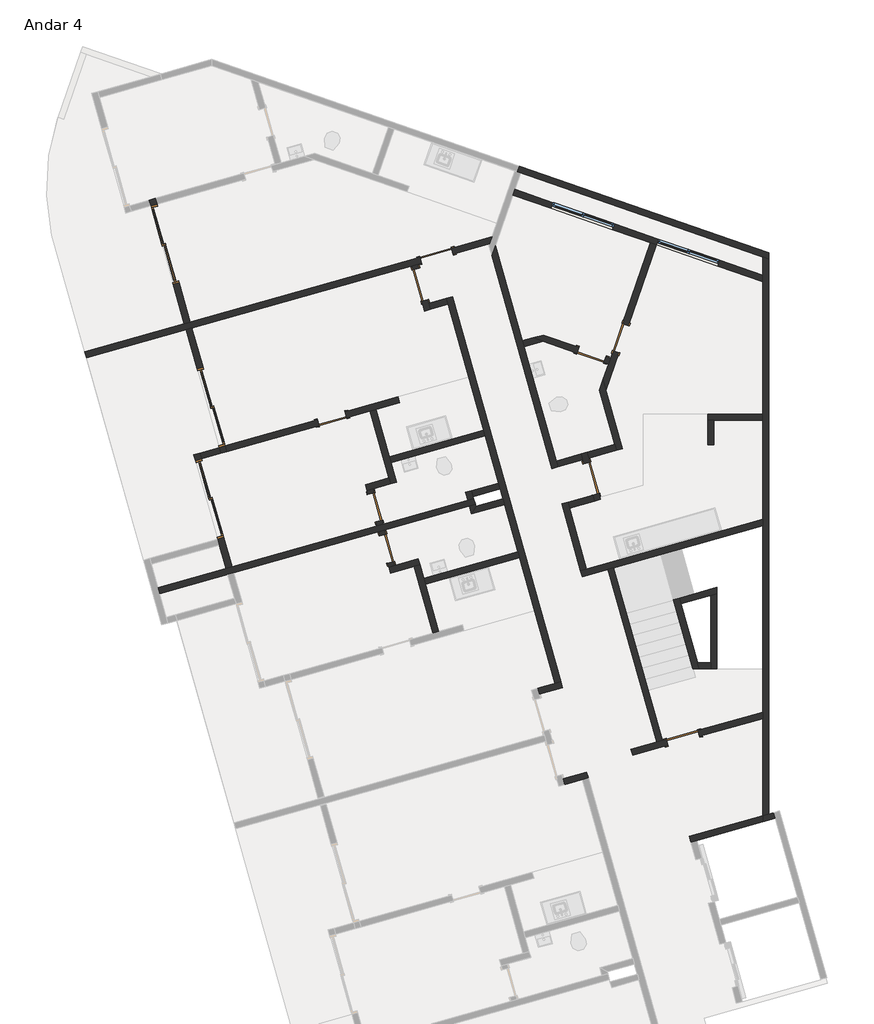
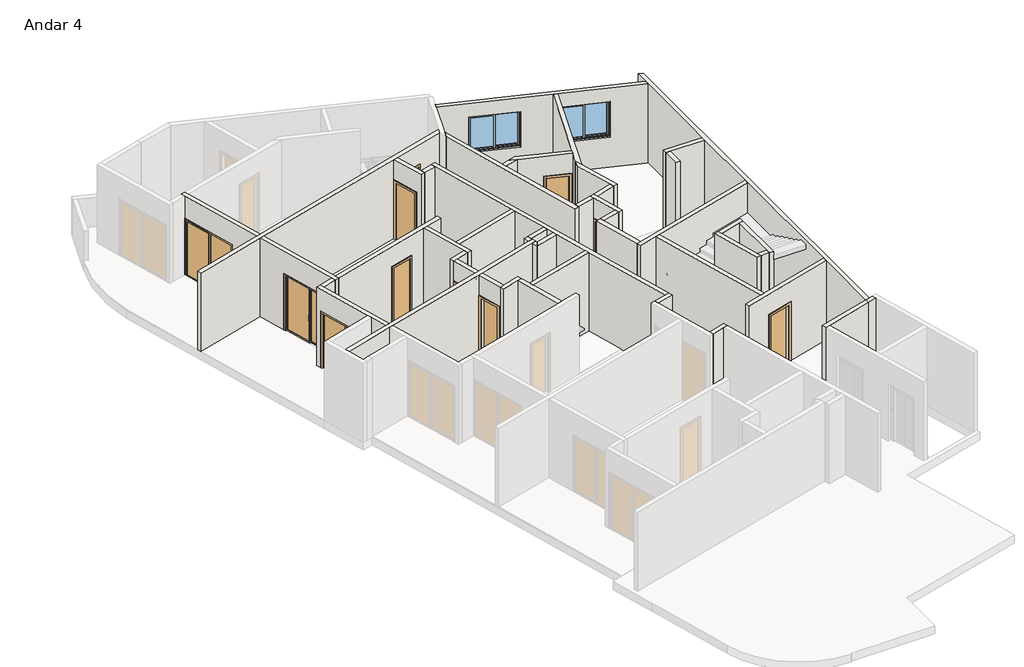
# One storey, part 2 of 3: 48 walls, 12 doors, 2 windows.
"""IFC4 building model written with IfcOpenShell, lengths in millimetres."""

from ifc_helpers import new_model, si_unit, frame, origin, place, context, project, spatial, polyline, outline, extrude, faceted_brep, transform, mapped, element, save
from components import p2_80cm_9d4be4ef, p2_80cm_083652d6, p3_70cm_ef4d15e3, p3_70cm_0a698c7c, p4_correr_200cm_eaaa0877, jx_160cm_e9e36a0c

model = new_model("IFC4")

# Units and contexts
model_context = context("Model", 3, world=origin())
ifc_project = project(units=[si_unit("LENGTHUNIT", "METRE", prefix="MILLI")], contexts=[model_context])

# Site, building, storey
site = spatial("IfcSite", under=ifc_project)
building = spatial("IfcBuilding", under=site)
storey = spatial("IfcBuildingStorey", under=building, Name="Andar 4", Elevation=62350.0)

# Doors
placement = place(None, origin())
p2_80cm_shape = p2_80cm_9d4be4ef(model_context)
element("IfcDoor", 1, ObjectType="M_Folha única1 : P2 - 80CM", at=placement, inside=storey, context=model_context, shape_type="MappedRepresentation", body=[
    mapped(p2_80cm_shape, transform((-83145.1128896, 30941.0402894, 62350.0), x_axis=(-0.9623628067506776, -0.2717679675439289, 0.0), y_axis=(0.2717679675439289, -0.9623628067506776, 0.0), z_axis=(0.0, 0.0, 1.0))),
])
element("IfcDoor", 2, ObjectType="M_Folha única1 : P2 - 80CM", at=placement, inside=storey, context=model_context, shape_type="MappedRepresentation", body=[
    mapped(p2_80cm_shape, transform((-79349.4097406, 25479.1041247, 62350.0), x_axis=(-0.27176796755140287, 0.962362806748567, 0.0), y_axis=(-0.962362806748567, -0.27176796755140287, 0.0), z_axis=(0.0, 0.0, 1.0))),
])
p2_80cm_2_shape = p2_80cm_083652d6(model_context)
element("IfcDoor", 3, ObjectType="M_Folha única1 : P2 - 80CM", at=placement, inside=storey, context=model_context, shape_type="MappedRepresentation", body=[
    mapped(p2_80cm_2_shape, transform((-83542.2049222, 30231.4150941, 62350.0), x_axis=(-0.2717679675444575, 0.9623628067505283, 0.0), y_axis=(-0.9623628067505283, -0.2717679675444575, 0.0), z_axis=(0.0, 0.0, 1.0))),
])
p3_70cm_shape = p3_70cm_ef4d15e3(model_context)
element("IfcDoor", 4, ObjectType="M_Folha única1 : P3 - 70CM", at=placement, inside=storey, context=model_context, shape_type="MappedRepresentation", body=[
    mapped(p3_70cm_shape, transform((-84650.97864, 24774.7108835, 62350.0), x_axis=(0.2717679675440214, -0.9623628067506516, 0.0), y_axis=(0.9623628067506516, 0.2717679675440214, 0.0), z_axis=(0.0, 0.0, 1.0))),
])
p3_70cm_2_shape = p3_70cm_0a698c7c(model_context)
element("IfcDoor", 5, ObjectType="M_Folha única1 : P3 - 70CM", at=placement, inside=storey, context=model_context, shape_type="MappedRepresentation", body=[
    mapped(p3_70cm_2_shape, transform((-84365.6222741, 23764.2299364, 62350.0), x_axis=(-0.2717679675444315, 0.9623628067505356, 0.0), y_axis=(-0.9623628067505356, -0.2717679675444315, 0.0), z_axis=(0.0, 0.0, 1.0))),
])
element("IfcDoor", 6, ObjectType="M_Folha única1 : P3 - 70CM", at=placement, inside=storey, context=model_context, shape_type="MappedRepresentation", body=[
    mapped(p3_70cm_2_shape, transform((-85705.4317558, 26944.8211633, 62350.0), x_axis=(0.9623628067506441, 0.2717679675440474, 0.0), y_axis=(-0.2717679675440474, 0.9623628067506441, 0.0), z_axis=(0.0, 0.0, 1.0))),
])
element("IfcDoor", 7, ObjectType="M_Folha única1 : P3 - 70CM", at=placement, inside=storey, context=model_context, shape_type="MappedRepresentation", body=[
    mapped(p3_70cm_2_shape, transform((-79346.1223746, 28509.6973665, 62350.0), x_axis=(0.9449109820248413, -0.32732741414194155, 0.0), y_axis=(0.32732741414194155, 0.9449109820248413, 0.0), z_axis=(0.0, 0.0, 1.0))),
])
element("IfcDoor", 8, ObjectType="M_Folha única1 : P3 - 70CM", at=placement, inside=storey, context=model_context, shape_type="MappedRepresentation", body=[
    mapped(p3_70cm_2_shape, transform((-78626.5662556, 28921.8732895, 62350.0), x_axis=(-0.32732741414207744, -0.9449109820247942, 0.0), y_axis=(0.9449109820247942, -0.32732741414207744, 0.0), z_axis=(0.0, 0.0, 1.0))),
])
p4_correr_200cm_shape = p4_correr_200cm_eaaa0877(model_context)
element("IfcDoor", 9, ObjectType="Porta de correr dupla envidraçada sem revestimento : P4 - CORRER - 200CM", at=placement, inside=storey, context=model_context, shape_type="MappedRepresentation", body=[
    mapped(p4_correr_200cm_shape, transform((-89799.7974026, 31217.9316171, 62350.0), x_axis=(0.27176796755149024, -0.9623628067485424, 0.0), y_axis=(0.9623628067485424, 0.27176796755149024, 0.0), z_axis=(0.0, 0.0, 1.0))),
])
element("IfcDoor", 10, ObjectType="Porta de correr dupla envidraçada sem revestimento : P4 - CORRER - 200CM", at=placement, inside=storey, context=model_context, shape_type="MappedRepresentation", body=[
    mapped(p4_correr_200cm_shape, transform((-88671.9603372, 27224.125969, 62350.0), x_axis=(-0.27176796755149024, 0.9623628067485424, 0.0), y_axis=(-0.9623628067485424, -0.27176796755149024, 0.0), z_axis=(0.0, 0.0, 1.0))),
])
element("IfcDoor", 11, ObjectType="Porta de correr dupla envidraçada sem revestimento : P4 - CORRER - 200CM", at=placement, inside=storey, context=model_context, shape_type="MappedRepresentation", body=[
    mapped(p4_correr_200cm_shape, transform((-88709.3738038, 24979.4758572, 62350.0), x_axis=(-0.2717679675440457, 0.9623628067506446, 0.0), y_axis=(-0.9623628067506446, -0.2717679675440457, 0.0), z_axis=(0.0, 0.0, 1.0))),
])
element("IfcDoor", 12, ObjectType="M_Folha única1 : PCF1 - 80CM", at=placement, inside=storey, context=model_context, shape_type="MappedRepresentation", body=[
    mapped(p2_80cm_shape, transform((-77103.5502958, 19127.1105693, 62350.0), x_axis=(-0.9623628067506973, -0.2717679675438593, 0.0), y_axis=(0.2717679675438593, -0.9623628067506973, 0.0), z_axis=(0.0, 0.0, 1.0))),
])

# Walls
element("IfcWall", 13, ObjectType="Básica .15 -  Interna", at=placement, inside=storey, context=model_context, shape_type="Brep", body=[
    faceted_brep([(-82901.0804648, 29892.9118737, 62350.0), (-82860.3152697, 29748.5574527, 62350.0), (-81990.6577736, 26668.9964711, 62350.0), (-81949.8925784, 26524.6420501, 62350.0), (-81623.7710174, 25369.806682, 62350.0), (-81583.0058223, 25225.452261, 62350.0), (-81515.0638304, 24984.8615593, 62350.0), (-81474.2986352, 24840.5071383, 62350.0), (-81148.1770742, 23685.6717702, 62350.0), (-81107.4118791, 23541.3173492, 62350.0), (-80237.7543829, 20461.7563676, 62350.0), (-80237.7543829, 20461.7563676, 65250.0), (-81107.4118791, 23541.3173492, 65250.0), (-81148.1770742, 23685.6717702, 65250.0), (-81474.2986352, 24840.5071383, 65250.0), (-81515.0638304, 24984.8615593, 65250.0), (-81583.0058223, 25225.452261, 65250.0), (-81623.7710174, 25369.806682, 65250.0), (-81949.8925784, 26524.6420501, 65250.0), (-81990.6577736, 26668.9964711, 65250.0), (-82860.3152697, 29748.5574527, 65250.0), (-82901.0804648, 29892.9118737, 65250.0), (-82756.7260438, 29933.6770689, 62350.0), (-82756.7260438, 29933.6770689, 65250.0), (-80093.3999619, 20502.5215627, 65250.0), (-80093.3999619, 20502.5215627, 62350.0)], [[[0, 1, 2, 3, 4, 5, 6, 7, 8, 9, 10, 11, 12, 13, 14, 15, 16, 17, 18, 19, 20, 21]], [[22, 23, 24, 25]], [[10, 9, 8, 7, 6, 5, 4, 3, 2, 1, 0, 22, 25]], [[21, 20, 19, 18, 17, 16, 15, 14, 13, 12, 11, 24, 23]], [[0, 21, 23, 22]], [[11, 10, 25, 24]]]),
])
element("IfcWall", 14, ObjectType="Básica .15 -  Interna", at=placement, inside=storey, context=model_context, shape_type="Brep", body=[
    faceted_brep([(-83750.2661164, 30692.2138999, 62350.0), (-83723.0893197, 30595.9776193, 62350.0), (-83723.0893197, 30595.9776193, 64450.0), (-83505.6749457, 29826.0873739, 64450.0), (-83505.6749457, 29826.0873739, 62350.0), (-83437.7329538, 29585.4966722, 62350.0), (-83437.7329538, 29585.4966722, 65250.0), (-83750.2661164, 30692.2138999, 65250.0), (-83578.7348987, 30636.7428144, 64450.0), (-83578.7348987, 30636.7428144, 62350.0), (-83605.9116954, 30732.9790951, 62350.0), (-83605.9116954, 30732.9790951, 65250.0), (-83334.1437279, 29770.6162883, 65250.0), (-83293.3785328, 29626.2618673, 65250.0), (-83293.3785328, 29626.2618673, 62350.0), (-83334.1437279, 29770.6162883, 62350.0), (-83361.3205246, 29866.852569, 62350.0), (-83361.3205246, 29866.852569, 64450.0)], [[[0, 1, 2, 3, 4, 5, 6, 7]], [[8, 9, 10, 11, 12, 13, 14, 15, 16, 17]], [[10, 9, 1, 0]], [[16, 15, 14, 5, 4]], [[7, 6, 13, 12, 11]], [[6, 5, 14, 13]], [[0, 7, 11, 10]], [[2, 1, 9, 8]], [[3, 2, 8, 17]], [[4, 3, 17, 16]]]),
])
element("IfcWall", 15, ObjectType="Básica .15 -  Interna", at=placement, inside=storey, context=model_context, shape_type="SweptSolid", body=[
    extrude(outline(polyline([(-82860.3152697, 29748.5574527), (-83293.3785328, 29626.2618673), (-83334.1437279, 29770.6162883), (-82901.0804648, 29892.9118737), (-82860.3152697, 29748.5574527)])), frame((0.0, 0.0, 62350.0), z_axis=(0.0, 0.0, 1.0), x_axis=(1.0, 0.0, 0.0)), (0.0, 0.0, 1.0), 2900.0),
])
element("IfcWall", 16, ObjectType="Básica .15 -  Interna", at=placement, inside=storey, context=model_context, shape_type="Brep", body=[
    faceted_brep([(-80093.3999619, 20502.5215627, 62350.0), (-80237.7543829, 20461.7563676, 62350.0), (-80670.817646, 20339.4607822, 62350.0), (-80670.817646, 20339.4607822, 65250.0), (-80237.7543829, 20461.7563676, 65250.0), (-80093.3999619, 20502.5215627, 65250.0), (-80052.6347668, 20358.1671417, 62350.0), (-80052.6347668, 20358.1671417, 65250.0), (-80630.0524508, 20195.1063612, 65250.0), (-80630.0524508, 20195.1063612, 62350.0)], [[[0, 1, 2, 3, 4, 5]], [[6, 7, 8, 9]], [[2, 1, 0, 6, 9]], [[5, 4, 3, 8, 7]], [[3, 2, 9, 8]], [[0, 5, 7, 6]]]),
])
element("IfcWall", 17, ObjectType="Básica .15 -  Interna", at=placement, inside=storey, context=model_context, shape_type="Brep", body=[
    faceted_brep([(-80004.9861255, 17981.6719056, 62350.0), (-79571.9228624, 18103.967491, 62350.0), (-79427.5684414, 18144.7326862, 62350.0), (-79427.5684414, 18144.7326862, 65250.0), (-79571.9228624, 18103.967491, 65250.0), (-80004.9861255, 17981.6719056, 65250.0), (-80045.7513206, 18126.0263266, 62350.0), (-80045.7513206, 18126.0263266, 65250.0), (-79468.3336366, 18289.0871072, 65250.0), (-79468.3336366, 18289.0871072, 62350.0)], [[[0, 1, 2, 3, 4, 5]], [[6, 7, 8, 9]], [[2, 1, 0, 6, 9]], [[5, 4, 3, 8, 7]], [[3, 2, 9, 8]], [[0, 5, 7, 6]]]),
])
element("IfcWall", 18, ObjectType="Básica .15 -  Interna", at=placement, inside=storey, context=model_context, shape_type="Brep", body=[
    faceted_brep([(-88305.9570711, 23274.9583478, 65250.0), (-88469.0178517, 23852.3760319, 65250.0), (-88509.7830468, 23996.7304529, 65250.0), (-89094.084177, 26065.8104874, 65250.0), (-89094.084177, 26065.8104874, 62350.0), (-89053.3189819, 25921.4560664, 62350.0), (-89053.3189819, 25921.4560664, 64450.0), (-88509.7830468, 23996.7304529, 64450.0), (-88509.7830468, 23996.7304529, 62350.0), (-88469.0178517, 23852.3760319, 62350.0), (-88305.9570711, 23274.9583478, 62350.0), (-88949.729756, 26106.5756825, 65250.0), (-88908.9645609, 25962.2212615, 65250.0), (-88161.6026501, 23315.723543, 65250.0), (-88161.6026501, 23315.723543, 62350.0), (-88365.4286258, 24037.495648, 62350.0), (-88365.4286258, 24037.495648, 64450.0), (-88908.9645609, 25962.2212615, 64450.0), (-88908.9645609, 25962.2212615, 62350.0), (-88949.729756, 26106.5756825, 62350.0)], [[[0, 1, 2, 3, 4, 5, 6, 7, 8, 9, 10]], [[11, 12, 13, 14, 15, 16, 17, 18, 19]], [[4, 19, 18, 5]], [[14, 10, 9, 8, 15]], [[3, 2, 1, 0, 13, 12, 11]], [[4, 3, 11, 19]], [[0, 10, 14, 13]], [[17, 6, 5, 18]], [[6, 17, 16, 7]], [[7, 16, 15, 8]]]),
])
element("IfcWall", 19, ObjectType="Básica .15 -  Interna", at=placement, inside=storey, context=model_context, shape_type="Brep", body=[
    faceted_brep([(-89143.3190618, 29169.2341801, 65250.0), (-88328.0151592, 26282.1457598, 65250.0), (-88287.249964, 26137.7913388, 65250.0), (-88287.249964, 26137.7913388, 62350.0), (-88328.0151592, 26282.1457598, 62350.0), (-88328.0151592, 26282.1457598, 64450.0), (-88871.5510943, 28206.8713733, 64450.0), (-88871.5510943, 28206.8713733, 62350.0), (-89143.3190618, 29169.2341801, 62350.0), (-88431.604385, 26097.0261437, 65250.0), (-88472.3695802, 26241.3805647, 65250.0), (-89287.6734828, 29128.468985, 65250.0), (-89287.6734828, 29128.468985, 62350.0), (-89015.9055153, 28166.1061782, 62350.0), (-89015.9055153, 28166.1061782, 64450.0), (-88472.3695802, 26241.3805647, 64450.0), (-88472.3695802, 26241.3805647, 62350.0), (-88431.604385, 26097.0261437, 62350.0)], [[[0, 1, 2, 3, 4, 5, 6, 7, 8]], [[9, 10, 11, 12, 13, 14, 15, 16, 17]], [[3, 17, 16, 4]], [[12, 8, 7, 13]], [[2, 1, 0, 11, 10, 9]], [[3, 2, 9, 17]], [[0, 8, 12, 11]], [[6, 14, 13, 7]], [[14, 6, 5, 15]], [[15, 5, 4, 16]]]),
])
element("IfcWall", 20, ObjectType="Básica .15 -  Interna", at=placement, inside=storey, context=model_context, shape_type="Brep", body=[
    faceted_brep([(-76904.7538909, 16570.3643175, 62350.0), (-76760.3994699, 16611.1295126, 62350.0), (-75147.8282189, 17066.5141226, 62350.0), (-75147.8282189, 17066.5141226, 65250.0), (-76760.3994699, 16611.1295126, 65250.0), (-76904.7538909, 16570.3643175, 65250.0), (-76945.5190861, 16714.7187385, 62350.0), (-76945.5190861, 16714.7187385, 65250.0), (-75147.8282189, 17222.3804954, 65250.0), (-75147.8282189, 17222.3804954, 62350.0)], [[[0, 1, 2, 3, 4, 5]], [[6, 7, 8, 9]], [[2, 1, 0, 6, 9]], [[5, 4, 3, 8, 7]], [[0, 5, 7, 6]], [[3, 2, 9, 8]]]),
])
element("IfcWall", 21, ObjectType="Básica .15 -  Interna", at=placement, inside=storey, context=model_context, shape_type="Brep", body=[
    faceted_brep([(-79570.9048554, 23078.5590693, 62350.0), (-78948.2127609, 23254.4051886, 62350.0), (-78803.8582924, 23295.1703972, 62350.0), (-75147.8282189, 24327.6207947, 62350.0), (-75147.8282189, 24327.6207947, 65250.0), (-78803.8582924, 23295.1703972, 65250.0), (-78948.2127609, 23254.4051886, 65250.0), (-79570.9048554, 23078.5590693, 65250.0), (-79611.6700506, 23222.9134903, 62350.0), (-79611.6700506, 23222.9134903, 65250.0), (-79467.3156296, 23263.6786855, 65250.0), (-75147.8282189, 24483.4871675, 65250.0), (-75147.8282189, 24483.4871675, 62350.0), (-79467.3156296, 23263.6786855, 62350.0)], [[[0, 1, 2, 3, 4, 5, 6, 7]], [[8, 9, 10, 11, 12, 13]], [[3, 2, 1, 0, 8, 13, 12]], [[7, 6, 5, 4, 11, 10, 9]], [[0, 7, 9, 8]], [[4, 3, 12, 11]]]),
])
element("IfcWall", 22, ObjectType="Básica .15 -  Interna", at=placement, inside=storey, context=model_context, shape_type="SweptSolid", body=[
    extrude(outline(polyline([(-77749.4687652, 19022.6385875), (-78948.2127609, 23254.4051886), (-78803.8582924, 23295.1703972), (-77605.1142967, 19063.4037961), (-77749.4687652, 19022.6385875)])), frame((0.0, 0.0, 62350.0), z_axis=(0.0, 0.0, 1.0), x_axis=(1.0, 0.0, 0.0)), (0.0, 0.0, 1.0), 2900.0),
])
element("IfcWall", 23, ObjectType="Básica .15 -  Interna", at=placement, inside=storey, context=model_context, shape_type="Brep", body=[
    faceted_brep([(-77508.878016, 19090.5805928, 64450.0), (-77508.878016, 19090.5805928, 62350.0), (-77605.1142967, 19063.4037961, 62350.0), (-77749.4687652, 19022.6385875, 62350.0), (-78375.5945972, 18845.8227925, 62350.0), (-78375.5945972, 18845.8227925, 65250.0), (-77749.4687652, 19022.6385875, 65250.0), (-77605.1142967, 19063.4037961, 65250.0), (-75147.8282189, 19757.3329862, 65250.0), (-75147.8282189, 19757.3329862, 62350.0), (-76738.9877706, 19307.9949669, 62350.0), (-76738.9877706, 19307.9949669, 64450.0), (-78334.829402, 18701.4683715, 62350.0), (-77468.1128209, 18946.2261718, 62350.0), (-77468.1128209, 18946.2261718, 64450.0), (-76698.2225755, 19163.6405459, 64450.0), (-76698.2225755, 19163.6405459, 62350.0), (-75147.8282189, 19601.4666134, 62350.0), (-75147.8282189, 19601.4666134, 65250.0), (-78334.829402, 18701.4683715, 65250.0)], [[[0, 1, 2, 3, 4, 5, 6, 7, 8, 9, 10, 11]], [[12, 13, 14, 15, 16, 17, 18, 19]], [[10, 9, 17, 16]], [[4, 3, 2, 1, 13, 12]], [[5, 4, 12, 19]], [[8, 7, 6, 5, 19, 18]], [[14, 13, 1, 0]], [[15, 14, 0, 11]], [[16, 15, 11, 10]], [[9, 8, 18, 17]]]),
])
element("IfcWall", 24, ObjectType="Básica .15 - Externa", at=placement, inside=storey, context=model_context, shape_type="Brep", body=[
    faceted_brep([(-75147.8282189, 30909.9128092, 65250.0), (-75147.8282189, 30909.9128092, 62350.0), (-75147.8282189, 30461.6117638, 62350.0), (-75147.8282189, 30302.8666514, 62350.0), (-75147.8282189, 27060.8243598, 62350.0), (-75147.8282189, 26910.8243598, 62350.0), (-75147.8282189, 24483.4871675, 62350.0), (-75147.8282189, 24327.6207947, 62350.0), (-75147.8282189, 19757.3329862, 62350.0), (-75147.8282189, 19601.4666134, 62350.0), (-75147.8282189, 17222.3804954, 62350.0), (-75147.8282189, 17222.3804954, 65250.0), (-75147.8282189, 19601.4666134, 65250.0), (-75147.8282189, 19757.3329862, 65250.0), (-75147.8282189, 24327.6207947, 65250.0), (-75147.8282189, 24483.4871675, 65250.0), (-75147.8282189, 26910.8243598, 65250.0), (-75147.8282189, 27060.8243598, 65250.0), (-75147.8282189, 30302.8666514, 65250.0), (-75147.8282189, 30461.6117638, 65250.0), (-74997.8282189, 30857.9511821, 62350.0), (-74997.8282189, 30857.9511821, 63650.0), (-74997.8282189, 30857.9511821, 64950.0), (-74997.8282189, 30857.9511821, 65250.0), (-74997.8282189, 17264.7399828, 65250.0), (-74997.8282189, 17264.7399828, 62350.0)], [[[0, 1, 2, 3, 4, 5, 6, 7, 8, 9, 10, 11, 12, 13, 14, 15, 16, 17, 18, 19]], [[20, 21, 22, 23, 24, 25]], [[10, 9, 8, 7, 6, 5, 4, 3, 2, 1, 20, 25]], [[0, 19, 18, 17, 16, 15, 14, 13, 12, 11, 24, 23]], [[11, 10, 25, 24]], [[0, 23, 22, 21, 20, 1]]]),
])
element("IfcWall", 25, ObjectType="Básica .15 -  Interna", at=placement, inside=storey, context=model_context, shape_type="Brep", body=[
    faceted_brep([(-80073.6755954, 24858.9302618, 62350.0), (-79611.6700506, 23222.9134903, 62350.0), (-79611.6700506, 23222.9134903, 65250.0), (-80073.6755954, 24858.9302618, 65250.0), (-79929.3211744, 24899.695457, 62350.0), (-79929.3211744, 24899.695457, 65250.0), (-79888.5559793, 24755.3410359, 65250.0), (-79467.3156296, 23263.6786855, 65250.0), (-79467.3156296, 23263.6786855, 62350.0), (-79888.5559793, 24755.3410359, 62350.0)], [[[0, 1, 2, 3]], [[4, 5, 6, 7, 8, 9]], [[1, 0, 4, 9, 8]], [[3, 2, 7, 6, 5]], [[0, 3, 5, 4]], [[2, 1, 8, 7]]]),
])
element("IfcWall", 26, ObjectType="Básica .15 -  Interna", at=placement, inside=storey, context=model_context, shape_type="Brep", body=[
    faceted_brep([(-79888.5559793, 24755.3410359, 62350.0), (-79272.1145689, 24929.4219834, 62350.0), (-79272.1145689, 24929.4219834, 65250.0), (-79888.5559793, 24755.3410359, 65250.0), (-79929.3211744, 24899.695457, 62350.0), (-79929.3211744, 24899.695457, 65250.0), (-79312.8797641, 25073.7764044, 65250.0), (-79312.8797641, 25073.7764044, 64450.0), (-79312.8797641, 25073.7764044, 62350.0)], [[[0, 1, 2, 3]], [[4, 5, 6, 7, 8]], [[1, 0, 4, 8]], [[3, 2, 6, 5]], [[0, 3, 5, 4]], [[2, 1, 8, 7, 6]]]),
])
element("IfcWall", 27, ObjectType="Básica .15 -  Interna", at=placement, inside=storey, context=model_context, shape_type="Brep", body=[
    faceted_brep([(-79598.23613, 26084.2573515, 62350.0), (-79557.4709349, 25939.9029305, 62350.0), (-79530.2941381, 25843.6666498, 62350.0), (-79530.2941381, 25843.6666498, 64450.0), (-79312.8797641, 25073.7764044, 64450.0), (-79312.8797641, 25073.7764044, 62350.0), (-79272.1145689, 24929.4219834, 62350.0), (-79272.1145689, 24929.4219834, 65250.0), (-79312.8797641, 25073.7764044, 65250.0), (-79557.4709349, 25939.9029305, 65250.0), (-79598.23613, 26084.2573515, 65250.0), (-79385.9397171, 25884.4318449, 64450.0), (-79385.9397171, 25884.4318449, 62350.0), (-79413.1165138, 25980.6681256, 62350.0), (-79453.881709, 26125.0225466, 62350.0), (-79453.881709, 26125.0225466, 65250.0), (-79413.1165138, 25980.6681256, 65250.0), (-79127.7601479, 24970.1871785, 65250.0), (-79127.7601479, 24970.1871785, 62350.0), (-79168.5253431, 25114.5415995, 62350.0), (-79168.5253431, 25114.5415995, 64450.0)], [[[0, 1, 2, 3, 4, 5, 6, 7, 8, 9, 10]], [[11, 12, 13, 14, 15, 16, 17, 18, 19, 20]], [[19, 18, 6, 5]], [[14, 13, 12, 2, 1, 0]], [[10, 9, 8, 7, 17, 16, 15]], [[7, 6, 18, 17]], [[0, 10, 15, 14]], [[3, 2, 12, 11]], [[4, 3, 11, 20]], [[5, 4, 20, 19]]]),
])
element("IfcWall", 28, ObjectType="Básica .15 -  Interna", at=placement, inside=storey, context=model_context, shape_type="Brep", body=[
    faceted_brep([(-81789.2550074, 30934.0017027, 62350.0), (-80318.2667662, 25725.0567879, 62350.0), (-80318.2667662, 25725.0567879, 65250.0), (-81789.2550074, 30934.0017027, 65250.0), (-81703.3880158, 31181.8778654, 62350.0), (-81703.3880158, 31181.8778654, 65250.0), (-81045.1503443, 28850.9797144, 65250.0), (-81004.3851492, 28706.6252933, 65250.0), (-80214.6775403, 25910.176404, 65250.0), (-80173.9123452, 25765.821983, 65250.0), (-80173.9123452, 25765.821983, 62350.0), (-80214.6775403, 25910.176404, 62350.0), (-81004.3851492, 28706.6252933, 62350.0), (-81045.1503443, 28850.9797144, 62350.0)], [[[0, 1, 2, 3]], [[4, 5, 6, 7, 8, 9, 10, 11, 12, 13]], [[1, 0, 4, 13, 12, 11, 10]], [[3, 2, 9, 8, 7, 6, 5]], [[0, 3, 5, 4]], [[2, 1, 10, 9]]]),
])
element("IfcWall", 29, ObjectType="Básica .15 -  Interna", at=placement, inside=storey, context=model_context, shape_type="Brep", body=[
    faceted_brep([(-88908.9645609, 25962.2212615, 62350.0), (-88431.604385, 26097.0261437, 62350.0), (-88431.604385, 26097.0261437, 65250.0), (-88908.9645609, 25962.2212615, 65250.0), (-88908.9645609, 25962.2212615, 64450.0), (-88949.729756, 26106.5756825, 62350.0), (-88949.729756, 26106.5756825, 65250.0), (-88472.3695802, 26241.3805647, 65250.0), (-88472.3695802, 26241.3805647, 62350.0)], [[[0, 1, 2, 3, 4]], [[5, 6, 7, 8]], [[1, 0, 5, 8]], [[3, 2, 7, 6]], [[0, 4, 3, 6, 5]], [[2, 1, 8, 7]]]),
])
element("IfcWall", 30, ObjectType="Básica .15 -  Interna", at=placement, inside=storey, context=model_context, shape_type="SweptSolid", body=[
    extrude(outline(polyline([(-79557.4709349, 25939.9029305), (-80173.9123452, 25765.821983), (-80214.6775403, 25910.176404), (-79598.23613, 26084.2573515), (-79557.4709349, 25939.9029305)])), frame((0.0, 0.0, 62350.0), z_axis=(0.0, 0.0, 1.0), x_axis=(1.0, 0.0, 0.0)), (0.0, 0.0, 1.0), 2900.0),
])
element("IfcWall", 31, ObjectType="Básica .15 -  Interna", at=placement, inside=storey, context=model_context, shape_type="Brep", body=[
    faceted_brep([(-91725.2428613, 28440.1077234, 62350.0), (-89287.6734828, 29128.468985, 62350.0), (-89143.3190618, 29169.2341801, 62350.0), (-83750.2661164, 30692.2138999, 62350.0), (-83605.9116954, 30732.9790951, 62350.0), (-83509.6754148, 30760.1558918, 62350.0), (-83509.6754148, 30760.1558918, 64450.0), (-82739.7851694, 30977.5702659, 64450.0), (-82739.7851694, 30977.5702659, 62350.0), (-81845.4155775, 31230.1371819, 62350.0), (-81845.4155775, 31230.1371819, 65250.0), (-83605.9116954, 30732.9790951, 65250.0), (-83750.2661164, 30692.2138999, 65250.0), (-89143.3190618, 29169.2341801, 65250.0), (-89287.6734828, 29128.468985, 65250.0), (-91725.2428613, 28440.1077234, 65250.0), (-83550.4406099, 30904.5103128, 64450.0), (-83550.4406099, 30904.5103128, 62350.0), (-89184.084257, 29313.5886011, 62350.0), (-89328.438678, 29272.823406, 62350.0), (-91766.0080564, 28584.4621444, 62350.0), (-91766.0080564, 28584.4621444, 65250.0), (-89328.438678, 29272.823406, 65250.0), (-89184.084257, 29313.5886011, 65250.0), (-81785.5670817, 31402.9045654, 65250.0), (-81785.5670817, 31402.9045654, 62350.0), (-82780.5503645, 31121.9246869, 62350.0), (-82780.5503645, 31121.9246869, 64450.0)], [[[0, 1, 2, 3, 4, 5, 6, 7, 8, 9, 10, 11, 12, 13, 14, 15]], [[16, 17, 18, 19, 20, 21, 22, 23, 24, 25, 26, 27]], [[26, 25, 9, 8]], [[20, 19, 18, 17, 5, 4, 3, 2, 1, 0]], [[15, 14, 13, 12, 11, 10, 24, 23, 22, 21]], [[0, 15, 21, 20]], [[10, 9, 25, 24]], [[6, 5, 17, 16]], [[7, 6, 16, 27]], [[8, 7, 27, 26]]]),
])
element("IfcWall", 32, ObjectType="Básica .15 -  Interna", at=placement, inside=storey, context=model_context, shape_type="Brep", body=[
    faceted_brep([(-90040.1533547, 32345.0314424, 65250.0), (-89999.3881596, 32200.6770214, 65250.0), (-89184.084257, 29313.5886011, 65250.0), (-89184.084257, 29313.5886011, 62350.0), (-89455.8522245, 30275.9514079, 62350.0), (-89455.8522245, 30275.9514079, 64450.0), (-89999.3881596, 32200.6770214, 64450.0), (-89999.3881596, 32200.6770214, 62350.0), (-90040.1533547, 32345.0314424, 62350.0), (-89328.438678, 29272.823406, 65250.0), (-90143.7425806, 32159.9118263, 65250.0), (-90184.5077758, 32304.2662473, 65250.0), (-90184.5077758, 32304.2662473, 62350.0), (-90143.7425806, 32159.9118262, 62350.0), (-90143.7425806, 32159.9118262, 64450.0), (-89600.2066455, 30235.1862128, 64450.0), (-89600.2066455, 30235.1862128, 62350.0), (-89328.438678, 29272.823406, 62350.0)], [[[0, 1, 2, 3, 4, 5, 6, 7, 8]], [[9, 10, 11, 12, 13, 14, 15, 16, 17]], [[12, 8, 7, 13]], [[3, 17, 16, 4]], [[2, 1, 0, 11, 10, 9]], [[0, 8, 12, 11]], [[3, 2, 9, 17]], [[15, 5, 4, 16]], [[5, 15, 14, 6]], [[6, 14, 13, 7]]]),
])
element("IfcWall", 33, ObjectType="Básica .15 -  Interna", at=placement, inside=storey, context=model_context, shape_type="Brep", body=[
    faceted_brep([(-89936.6922366, 22658.5779377, 62350.0), (-88265.191876, 23130.6039268, 62350.0), (-88120.837455, 23171.369122, 62350.0), (-84560.09507, 24176.9106019, 62350.0), (-84415.740649, 24217.675797, 62350.0), (-82192.6825654, 24845.459802, 62350.0), (-82192.6825654, 24845.459802, 65250.0), (-84415.740649, 24217.675797, 65250.0), (-84560.09507, 24176.9106019, 65250.0), (-88120.837455, 23171.369122, 65250.0), (-88265.191876, 23130.6039268, 65250.0), (-89936.6922366, 22658.5779377, 65250.0), (-89977.4574318, 22802.9323587, 62350.0), (-89977.4574318, 22802.9323587, 65250.0), (-88305.9570711, 23274.9583478, 65250.0), (-88161.6026501, 23315.723543, 65250.0), (-84600.8602651, 24321.2650229, 65250.0), (-84456.5058441, 24362.030218, 65250.0), (-82233.4477605, 24989.814223, 65250.0), (-82233.4477605, 24989.814223, 62350.0), (-84456.5058441, 24362.030218, 62350.0), (-84600.8602651, 24321.2650229, 62350.0), (-88161.6026501, 23315.723543, 62350.0), (-88305.9570711, 23274.9583478, 62350.0)], [[[0, 1, 2, 3, 4, 5, 6, 7, 8, 9, 10, 11]], [[12, 13, 14, 15, 16, 17, 18, 19, 20, 21, 22, 23]], [[5, 4, 3, 2, 1, 0, 12, 23, 22, 21, 20, 19]], [[6, 5, 19, 18]], [[11, 10, 9, 8, 7, 6, 18, 17, 16, 15, 14, 13]], [[0, 11, 13, 12]]]),
])
element("IfcWall", 34, ObjectType="Básica .15 -  Interna", at=placement, inside=storey, context=model_context, shape_type="Brep", body=[
    faceted_brep([(-81272.8781344, 32424.6503839, 62350.0), (-77897.5766162, 31255.4093243, 62350.0), (-77755.8399689, 31206.3102121, 62350.0), (-75147.8282189, 30302.8666514, 62350.0), (-75147.8282189, 30302.8666514, 65250.0), (-77755.8399689, 31206.3102121, 65250.0), (-77897.5766162, 31255.4093243, 65250.0), (-81272.8781344, 32424.6503839, 65250.0), (-78829.2985897, 31578.1679228, 63450.0), (-80341.1561609, 32101.8917854, 63450.0), (-80341.1561609, 32101.8917854, 64750.0), (-78829.2985897, 31578.1679228, 64750.0), (-76243.9823976, 30682.5863495, 63450.0), (-77755.8399689, 31206.3102121, 63450.0), (-77755.8399689, 31206.3102121, 64750.0), (-76243.9823976, 30682.5863495, 64750.0), (-81223.7790223, 32566.3870312, 62350.0), (-81223.7790223, 32566.3870312, 65250.0), (-75147.8282189, 30461.6117638, 65250.0), (-75147.8282189, 30461.6117638, 62350.0), (-78780.1994776, 31719.9045701, 63450.0), (-78780.1994776, 31719.9045701, 64750.0), (-80292.0570488, 32243.6284327, 64750.0), (-80292.0570488, 32243.6284327, 63450.0), (-76194.8832855, 30824.3229968, 63450.0), (-76194.8832855, 30824.3229968, 64750.0), (-77706.7408568, 31348.0468595, 64750.0), (-77706.7408568, 31348.0468595, 63450.0)], [[[0, 1, 2, 3, 4, 5, 6, 7], [8, 9, 10, 11], [12, 13, 14, 15]], [[16, 17, 18, 19], [20, 21, 22, 23], [24, 25, 26, 27]], [[3, 2, 1, 0, 16, 19]], [[7, 6, 5, 4, 18, 17]], [[0, 7, 17, 16]], [[21, 20, 8, 11]], [[22, 21, 11, 10]], [[23, 22, 10, 9]], [[20, 23, 9, 8]], [[25, 24, 12, 15]], [[26, 25, 15, 14]], [[27, 26, 14, 13]], [[24, 27, 13, 12]], [[4, 3, 19, 18]]]),
])
element("IfcWall", 35, ObjectType="Básica .15 - Externa", at=placement, inside=storey, context=model_context, shape_type="Brep", body=[
    faceted_brep([(-81156.3583355, 32991.3328194, 63650.0), (-81156.3583355, 32991.3328194, 62350.0), (-81156.3583355, 32991.3328194, 62050.0), (-81085.1216301, 32966.655652, 62050.0), (-74997.8282189, 30857.9511821, 62050.0), (-74997.8282189, 30857.9511821, 62350.0), (-74997.8282189, 30857.9511821, 63650.0), (-81085.1216301, 32966.655652, 63650.0), (-81107.2592234, 33133.0694667, 62050.0), (-81107.2592234, 33133.0694667, 62350.0), (-81107.2592234, 33133.0694667, 63650.0), (-81036.022518, 33108.3922993, 63650.0), (-74997.8282189, 31016.6962944, 63650.0), (-74997.8282189, 31016.6962944, 62050.0), (-81036.022518, 33108.3922993, 62050.0)], [[[0, 1, 2, 3, 4, 5, 6, 7]], [[8, 9, 10, 11, 12, 13, 14]], [[4, 3, 2, 8, 14, 13]], [[0, 7, 6, 12, 11, 10]], [[0, 10, 9, 8, 2, 1]], [[4, 13, 12, 6, 5]]]),
])
element("IfcWall", 36, ObjectType="Básica .15 -  Interna", at=placement, inside=storey, context=model_context, shape_type="SweptSolid", body=[
    extrude(outline(polyline([(-82179.094167, 24797.3416617), (-81515.0638304, 24984.8615593), (-81474.2986352, 24840.5071383), (-82282.6833929, 24612.2220455), (-82179.094167, 24797.3416617)])), frame((0.0, 0.0, 62350.0), z_axis=(0.0, 0.0, 1.0), x_axis=(1.0, 0.0, 0.0)), (0.0, 0.0, 1.0), 2900.0),
])
element("IfcWall", 37, ObjectType="Básica .15 -  Interna", at=placement, inside=storey, context=model_context, shape_type="SweptSolid", body=[
    extrude(outline(polyline([(-82192.6825654, 24845.459802), (-82179.094167, 24797.3416617), (-82282.6833929, 24612.2220455), (-82337.0369864, 24804.6946069), (-82192.6825654, 24845.459802)])), frame((0.0, 0.0, 62350.0), z_axis=(0.0, 0.0, 1.0), x_axis=(1.0, 0.0, 0.0)), (0.0, 0.0, 1.0), 2900.0),
])
element("IfcWall", 38, ObjectType="Básica .15 -  Interna", at=placement, inside=storey, context=model_context, shape_type="Brep", body=[
    faceted_brep([(-83593.7317942, 23514.6100515, 62350.0), (-84171.1494782, 23351.5492709, 62350.0), (-84315.5038992, 23310.7840758, 62350.0), (-84315.5038992, 23310.7840758, 65250.0), (-84171.1494782, 23351.5492709, 65250.0), (-83593.7317942, 23514.6100515, 65250.0), (-83552.966599, 23370.2556304, 62350.0), (-83552.966599, 23370.2556304, 65250.0), (-83697.32102, 23329.4904353, 65250.0), (-84274.7387041, 23166.4296548, 65250.0), (-84274.7387041, 23166.4296548, 62350.0), (-83697.32102, 23329.4904353, 62350.0)], [[[0, 1, 2, 3, 4, 5]], [[6, 7, 8, 9, 10, 11]], [[2, 1, 0, 6, 11, 10]], [[5, 4, 3, 9, 8, 7]], [[0, 5, 7, 6]], [[3, 2, 10, 9]]]),
])
element("IfcWall", 39, ObjectType="Básica .15 -  Interna", at=placement, inside=storey, context=model_context, shape_type="Brep", body=[
    faceted_brep([(-83090.9610542, 21734.238859, 62350.0), (-83417.0826153, 22889.0742271, 62350.0), (-83457.8478104, 23033.4286481, 62350.0), (-83552.966599, 23370.2556304, 62350.0), (-83552.966599, 23370.2556304, 65250.0), (-83457.8478104, 23033.4286481, 65250.0), (-83417.0826153, 22889.0742271, 65250.0), (-83090.9610542, 21734.238859, 65250.0), (-83235.3154752, 21693.4736638, 62350.0), (-83235.3154752, 21693.4736638, 65250.0), (-83697.32102, 23329.4904353, 65250.0), (-83697.32102, 23329.4904353, 62350.0)], [[[0, 1, 2, 3, 4, 5, 6, 7]], [[8, 9, 10, 11]], [[3, 2, 1, 0, 8, 11]], [[7, 6, 5, 4, 10, 9]], [[0, 7, 9, 8]], [[4, 3, 11, 10]]]),
])
element("IfcWall", 40, ObjectType="Básica .15 -  Interna", at=placement, inside=storey, context=model_context, shape_type="SweptSolid", body=[
    extrude(outline(polyline([(-83457.8478104, 23033.4286481), (-81148.1770742, 23685.6717702), (-81107.4118791, 23541.3173492), (-83417.0826153, 22889.0742271), (-83457.8478104, 23033.4286481)])), frame((0.0, 0.0, 62350.0), z_axis=(0.0, 0.0, 1.0), x_axis=(1.0, 0.0, 0.0)), (0.0, 0.0, 1.0), 2900.0),
])
element("IfcWall", 41, ObjectType="Básica .15 -  Interna", at=placement, inside=storey, context=model_context, shape_type="SweptSolid", body=[
    extrude(outline(polyline([(150.0, 0.0), (250.0, 0.0), (250.0, -2100.0), (950.0, -2100.0), (950.0, 0.0), (1050.0, 0.0), (1050.0, -2900.0), (150.0, -2900.0), (150.0, 0.0)])), frame((-84600.8602651, 24321.2650229, 62350.0), z_axis=(0.9623628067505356, 0.2717679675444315, 0.0), x_axis=(0.2717679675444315, -0.9623628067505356, 0.0)), (0.0, 0.0, 1.0), 150.0),
])
element("IfcWall", 42, ObjectType="Básica .15 -  Interna", at=placement, inside=storey, context=model_context, shape_type="Brep", body=[
    faceted_brep([(-84770.8044918, 27130.823522, 62350.0), (-84308.798947, 25494.8067505, 62350.0), (-84268.0337519, 25350.4523295, 62350.0), (-84268.0337519, 25350.4523295, 65250.0), (-84308.798947, 25494.8067505, 65250.0), (-84770.8044918, 27130.823522, 65250.0), (-84626.4500708, 27171.5887171, 62350.0), (-84626.4500708, 27171.5887171, 65250.0), (-84300.3285098, 26016.753349, 65250.0), (-84259.5633146, 25872.398928, 65250.0), (-84123.6793309, 25391.2175246, 65250.0), (-84123.6793309, 25391.2175246, 62350.0), (-84259.5633146, 25872.398928, 62350.0), (-84300.3285098, 26016.753349, 62350.0)], [[[0, 1, 2, 3, 4, 5]], [[6, 7, 8, 9, 10, 11, 12, 13]], [[2, 1, 0, 6, 13, 12, 11]], [[5, 4, 3, 10, 9, 8, 7]], [[3, 2, 11, 10]], [[0, 5, 7, 6]]]),
])
element("IfcWall", 43, ObjectType="Básica .15 -  Interna", at=placement, inside=storey, context=model_context, shape_type="SweptSolid", body=[
    extrude(outline(polyline([(-84300.3285098, 26016.753349), (-81990.6577736, 26668.9964711), (-81949.8925784, 26524.6420501), (-84259.5633146, 25872.398928), (-84300.3285098, 26016.753349)])), frame((0.0, 0.0, 62350.0), z_axis=(0.0, 0.0, 1.0), x_axis=(1.0, 0.0, 0.0)), (0.0, 0.0, 1.0), 2900.0),
])
element("IfcWall", 44, ObjectType="Básica .15 -  Interna", at=placement, inside=storey, context=model_context, shape_type="Brep", body=[
    faceted_brep([(-84308.798947, 25494.8067505, 62350.0), (-84886.2166311, 25331.74597, 62350.0), (-84886.2166311, 25331.74597, 65250.0), (-84308.798947, 25494.8067505, 65250.0), (-84268.0337519, 25350.4523295, 62350.0), (-84268.0337519, 25350.4523295, 65250.0), (-84701.0970149, 25228.1567441, 65250.0), (-84845.4514359, 25187.391549, 65250.0), (-84845.4514359, 25187.391549, 62350.0), (-84701.0970149, 25228.1567441, 62350.0)], [[[0, 1, 2, 3]], [[4, 5, 6, 7, 8, 9]], [[1, 0, 4, 9, 8]], [[3, 2, 7, 6, 5]], [[2, 1, 8, 7]], [[0, 3, 5, 4]]]),
])
element("IfcWall", 45, ObjectType="Básica .15 -  Interna", at=placement, inside=storey, context=model_context, shape_type="SweptSolid", body=[
    extrude(outline(polyline([(800.0, -2100.0), (800.0, 0.0), (900.0, 0.0), (900.0, -2900.0), (0.0, -2900.0), (0.0, 0.0), (100.0, 0.0), (100.0, -2100.0), (800.0, -2100.0)])), frame((-84845.4514359, 25187.391549, 62350.0), z_axis=(0.9623628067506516, 0.2717679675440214, 0.0), x_axis=(0.2717679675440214, -0.9623628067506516, 0.0)), (0.0, 0.0, 1.0), 150.0),
])
element("IfcWall", 46, ObjectType="Básica .15 -  Interna", at=placement, inside=storey, context=model_context, shape_type="Brep", body=[
    faceted_brep([(-82432.1557751, 25141.5215893, 62350.0), (-82377.8021816, 24949.0490279, 62350.0), (-82377.8021816, 24949.0490279, 65250.0), (-82432.1557751, 25141.5215893, 65250.0), (-82287.801354, 25182.2867844, 62350.0), (-82287.801354, 25182.2867844, 65250.0), (-82247.0361589, 25037.9323634, 65250.0), (-82233.4477605, 24989.814223, 65250.0), (-82233.4477605, 24989.814223, 62350.0), (-82247.0361589, 25037.9323634, 62350.0)], [[[0, 1, 2, 3]], [[4, 5, 6, 7, 8, 9]], [[1, 0, 4, 9, 8]], [[2, 1, 8, 7]], [[3, 2, 7, 6, 5]], [[0, 3, 5, 4]]]),
])
element("IfcWall", 47, ObjectType="Básica .15 -  Interna", at=placement, inside=storey, context=model_context, shape_type="SweptSolid", body=[
    extrude(outline(polyline([(-81583.0058223, 25225.452261), (-82247.0361589, 25037.9323634), (-82287.801354, 25182.2867844), (-81623.7710174, 25369.806682), (-81583.0058223, 25225.452261)])), frame((0.0, 0.0, 62350.0), z_axis=(0.0, 0.0, 1.0), x_axis=(1.0, 0.0, 0.0)), (0.0, 0.0, 1.0), 2900.0),
])
element("IfcWall", 48, ObjectType="Básica .15 -  Interna", at=placement, inside=storey, context=model_context, shape_type="Brep", body=[
    faceted_brep([(-76493.6479314, 26910.8243598, 62350.0), (-76343.6479314, 26910.8243598, 62350.0), (-75147.8282189, 26910.8243598, 62350.0), (-75147.8282189, 26910.8243598, 65250.0), (-76343.6479314, 26910.8243598, 65250.0), (-76493.6479314, 26910.8243598, 65250.0), (-76493.6479314, 27060.8243598, 62350.0), (-76493.6479314, 27060.8243598, 65250.0), (-75147.8282189, 27060.8243598, 65250.0), (-75147.8282189, 27060.8243598, 62350.0)], [[[0, 1, 2, 3, 4, 5]], [[6, 7, 8, 9]], [[2, 1, 0, 6, 9]], [[5, 4, 3, 8, 7]], [[0, 5, 7, 6]], [[3, 2, 9, 8]]]),
])
element("IfcWall", 49, ObjectType="Básica .15 -  Interna", at=placement, inside=storey, context=model_context, shape_type="SweptSolid", body=[
    extrude(outline(polyline([(-76343.6479314, 26910.8243598), (-76343.6479314, 26310.8243598), (-76493.6479314, 26310.8243598), (-76493.6479314, 26910.8243598), (-76343.6479314, 26910.8243598)])), frame((0.0, 0.0, 62350.0), z_axis=(0.0, 0.0, 1.0), x_axis=(1.0, 0.0, 0.0)), (0.0, 0.0, 1.0), 2900.0),
])
element("IfcWall", 50, ObjectType="Básica .15 -  Interna", at=placement, inside=storey, context=model_context, shape_type="Brep", body=[
    faceted_brep([(-78877.464657, 28426.7218055, 62350.0), (-78990.8539749, 28466.0010952, 62350.0), (-78990.8539749, 28466.0010952, 64450.0), (-79652.2916623, 28695.1302851, 64450.0), (-79652.2916623, 28695.1302851, 62350.0), (-80525.6718652, 28997.6786614, 62350.0), (-80525.6718652, 28997.6786614, 65250.0), (-78877.464657, 28426.7218055, 65250.0), (-79039.953087, 28324.2644479, 64450.0), (-79039.953087, 28324.2644479, 62350.0), (-78926.5637691, 28284.9851582, 62350.0), (-78926.5637691, 28284.9851582, 65250.0), (-80530.2499593, 28840.5194505, 65250.0), (-80778.126122, 28926.3864421, 65250.0), (-80778.126122, 28926.3864421, 62350.0), (-80530.2499593, 28840.5194505, 62350.0), (-79701.3907744, 28553.3936378, 62350.0), (-79701.3907744, 28553.3936378, 64450.0)], [[[0, 1, 2, 3, 4, 5, 6, 7]], [[8, 9, 10, 11, 12, 13, 14, 15, 16, 17]], [[10, 9, 1, 0]], [[16, 15, 14, 5, 4]], [[7, 6, 13, 12, 11]], [[2, 1, 9, 8]], [[3, 2, 8, 17]], [[4, 3, 17, 16]], [[6, 5, 14, 13]], [[0, 7, 11, 10]]]),
])
element("IfcWall", 51, ObjectType="Básica .15 -  Interna", at=placement, inside=storey, context=model_context, shape_type="SweptSolid", body=[
    extrude(outline(polyline([(-81045.1503443, 28850.9797144), (-80778.126122, 28926.3864421), (-80530.2499593, 28840.5194505), (-81004.3851492, 28706.6252933), (-81045.1503443, 28850.9797144)])), frame((0.0, 0.0, 62350.0), z_axis=(0.0, 0.0, 1.0), x_axis=(1.0, 0.0, 0.0)), (0.0, 0.0, 1.0), 2900.0),
])
element("IfcWall", 52, ObjectType="Básica .15 -  Interna", at=placement, inside=storey, context=model_context, shape_type="Brep", body=[
    faceted_brep([(-79146.9727346, 27648.7205404, 62350.0), (-78771.1333302, 26317.8283554, 62350.0), (-78730.3681351, 26173.4739343, 62350.0), (-78730.3681351, 26173.4739343, 65250.0), (-78771.1333302, 26317.8283554, 65250.0), (-79146.9727346, 27648.7205404, 65250.0), (-79061.105743, 27896.5967032, 62350.0), (-79061.105743, 27896.5967032, 65250.0), (-78989.8135237, 27644.1424464, 65250.0), (-78586.013714, 26214.2391295, 65250.0), (-78586.013714, 26214.2391295, 62350.0), (-78989.8135237, 27644.1424464, 62350.0)], [[[0, 1, 2, 3, 4, 5]], [[6, 7, 8, 9, 10, 11]], [[2, 1, 0, 6, 11, 10]], [[5, 4, 3, 9, 8, 7]], [[0, 5, 7, 6]], [[3, 2, 10, 9]]]),
])
element("IfcWall", 53, ObjectType="Básica .15 -  Interna", at=placement, inside=storey, context=model_context, shape_type="Brep", body=[
    faceted_brep([(-78811.9991742, 28615.7040019, 64450.0), (-78811.9991742, 28615.7040019, 62350.0), (-78877.464657, 28426.7218055, 62350.0), (-78926.5637691, 28284.9851582, 62350.0), (-79061.105743, 27896.5967032, 62350.0), (-79061.105743, 27896.5967032, 65250.0), (-78926.5637691, 28284.9851582, 65250.0), (-78877.464657, 28426.7218055, 65250.0), (-77897.5766162, 31255.4093243, 65250.0), (-77897.5766162, 31255.4093243, 62350.0), (-78582.8699843, 29277.1416893, 62350.0), (-78582.8699843, 29277.1416893, 64450.0), (-78989.8135237, 27644.1424464, 62350.0), (-78670.2625269, 28566.6048898, 62350.0), (-78670.2625269, 28566.6048898, 64450.0), (-78441.133337, 29228.0425772, 64450.0), (-78441.133337, 29228.0425772, 62350.0), (-77755.8399689, 31206.3102121, 62350.0), (-77755.8399689, 31206.3102121, 63450.0), (-77755.8399689, 31206.3102121, 64750.0), (-77755.8399689, 31206.3102121, 65250.0), (-78989.8135237, 27644.1424464, 65250.0)], [[[0, 1, 2, 3, 4, 5, 6, 7, 8, 9, 10, 11]], [[12, 13, 14, 15, 16, 17, 18, 19, 20, 21]], [[10, 9, 17, 16]], [[4, 3, 2, 1, 13, 12]], [[8, 7, 6, 5, 21, 20]], [[14, 13, 1, 0]], [[15, 14, 0, 11]], [[16, 15, 11, 10]], [[5, 4, 12, 21]], [[9, 8, 20, 19, 18, 17]]]),
])
element("IfcWall", 54, ObjectType="Básica .15 -  Interna", at=placement, inside=storey, context=model_context, shape_type="Brep", body=[
    faceted_brep([(-85348.2221759, 26967.7627414, 64450.0), (-85348.2221759, 26967.7627414, 62350.0), (-84770.8044918, 27130.823522, 62350.0), (-84626.4500708, 27171.5887171, 62350.0), (-84049.0323868, 27334.6494976, 62350.0), (-84049.0323868, 27334.6494976, 65250.0), (-84626.4500708, 27171.5887171, 65250.0), (-84770.8044918, 27130.823522, 65250.0), (-88287.249964, 26137.7913388, 65250.0), (-88287.249964, 26137.7913388, 62350.0), (-86021.8761406, 26777.5251642, 62350.0), (-86021.8761406, 26777.5251642, 64450.0), (-84089.7975819, 27479.0039186, 62350.0), (-85388.987371, 27112.1171625, 62350.0), (-85388.987371, 27112.1171625, 64450.0), (-86062.6413357, 26921.8795852, 64450.0), (-86062.6413357, 26921.8795852, 62350.0), (-88328.0151592, 26282.1457598, 62350.0), (-88328.0151592, 26282.1457598, 65250.0), (-84089.7975819, 27479.0039186, 65250.0)], [[[0, 1, 2, 3, 4, 5, 6, 7, 8, 9, 10, 11]], [[12, 13, 14, 15, 16, 17, 18, 19]], [[10, 9, 17, 16]], [[4, 3, 2, 1, 13, 12]], [[5, 4, 12, 19]], [[8, 7, 6, 5, 19, 18]], [[16, 15, 11, 10]], [[15, 14, 0, 11]], [[14, 13, 1, 0]], [[9, 8, 18, 17]]]),
])
element("IfcWall", 55, ObjectType="Básica .15 -  Interna", at=placement, inside=storey, context=model_context, shape_type="SweptSolid", body=[
    extrude(outline(polyline([(-78730.3681351, 26173.4739343), (-79413.1165138, 25980.6681256), (-79453.881709, 26125.0225466), (-78771.1333302, 26317.8283554), (-78730.3681351, 26173.4739343)])), frame((0.0, 0.0, 62350.0), z_axis=(0.0, 0.0, 1.0), x_axis=(1.0, 0.0, 0.0)), (0.0, 0.0, 1.0), 2900.0),
])
element("IfcWall", 56, ObjectType="Básica .15 -  Interna", at=placement, inside=storey, context=model_context, shape_type="Brep", body=[
    faceted_brep([(-76703.5854218, 20819.1154254, 62350.0), (-76745.9449092, 20969.1154254, 62350.0), (-77152.5348621, 22408.8989724, 62350.0), (-77193.3000572, 22553.2533934, 62350.0), (-77193.3000572, 22553.2533934, 65250.0), (-77152.5348621, 22408.8989724, 65250.0), (-76745.9449092, 20969.1154254, 65250.0), (-76703.5854218, 20819.1154254, 65250.0), (-76859.4517946, 20819.1154254, 62350.0), (-76859.4517946, 20819.1154254, 65250.0), (-77337.6544782, 22512.4881983, 65250.0), (-77337.6544782, 22512.4881983, 62350.0)], [[[0, 1, 2, 3, 4, 5, 6, 7]], [[8, 9, 10, 11]], [[3, 2, 1, 0, 8, 11]], [[7, 6, 5, 4, 10, 9]], [[4, 3, 11, 10]], [[0, 7, 9, 8]]]),
])
element("IfcWall", 57, ObjectType="Básica .15 -  Interna", at=placement, inside=storey, context=model_context, shape_type="Brep", body=[
    faceted_brep([(-77152.5348621, 22408.8989724, 62350.0), (-76425.2862396, 22614.2714979, 62350.0), (-76275.2862396, 22656.6309852, 62350.0), (-76275.2862396, 22656.6309852, 65250.0), (-76425.2862396, 22614.2714979, 65250.0), (-77152.5348621, 22408.8989724, 65250.0), (-77193.3000572, 22553.2533934, 62350.0), (-77193.3000572, 22553.2533934, 65250.0), (-76275.2862396, 22812.497358, 65250.0), (-76275.2862396, 22812.497358, 62350.0)], [[[0, 1, 2, 3, 4, 5]], [[6, 7, 8, 9]], [[2, 1, 0, 6, 9]], [[5, 4, 3, 8, 7]], [[0, 5, 7, 6]], [[3, 2, 9, 8]]]),
])
element("IfcWall", 58, ObjectType="Básica .15 -  Interna", at=placement, inside=storey, context=model_context, shape_type="Brep", body=[
    faceted_brep([(-76425.2862396, 22614.2714979, 62350.0), (-76425.2862396, 20969.1154254, 62350.0), (-76425.2862396, 20819.1154254, 62350.0), (-76425.2862396, 20819.1154254, 65250.0), (-76425.2862396, 20969.1154254, 65250.0), (-76425.2862396, 22614.2714979, 65250.0), (-76275.2862396, 22656.6309852, 62350.0), (-76275.2862396, 22656.6309852, 65250.0), (-76275.2862396, 20819.1154254, 65250.0), (-76275.2862396, 20819.1154254, 62350.0)], [[[0, 1, 2, 3, 4, 5]], [[6, 7, 8, 9]], [[2, 1, 0, 6, 9]], [[5, 4, 3, 8, 7]], [[0, 5, 7, 6]], [[3, 2, 9, 8]]]),
])
element("IfcWall", 59, ObjectType="Básica .15 -  Interna", at=placement, inside=storey, context=model_context, shape_type="SweptSolid", body=[
    extrude(outline(polyline([(-76745.9449092, 20969.1154254), (-76425.2862396, 20969.1154254), (-76425.2862396, 20819.1154254), (-76703.5854218, 20819.1154254), (-76745.9449092, 20969.1154254)])), frame((0.0, 0.0, 62350.0), z_axis=(0.0, 0.0, 1.0), x_axis=(1.0, 0.0, 0.0)), (0.0, 0.0, 1.0), 2900.0),
])
element("IfcWall", 60, ObjectType="Básica .15 - Externa", at=placement, inside=storey, context=model_context, shape_type="Brep", body=[
    faceted_brep([(-75147.8282189, 17066.5141226, 62350.0), (-74840.4856705, 17153.3066079, 62350.0), (-74840.4856705, 17153.3066079, 65250.0), (-75147.8282189, 17066.5141226, 65250.0), (-75147.8282189, 17222.3804954, 62350.0), (-75147.8282189, 17222.3804954, 65250.0), (-74997.8282189, 17264.7399828, 65250.0), (-74881.2508656, 17297.6610289, 65250.0), (-74881.2508656, 17297.6610289, 62350.0), (-74997.8282189, 17264.7399828, 62350.0)], [[[0, 1, 2, 3]], [[4, 5, 6, 7, 8, 9]], [[1, 0, 4, 9, 8]], [[3, 2, 7, 6, 5]], [[2, 1, 8, 7]], [[0, 3, 5, 4]]]),
])

# Windows
jx_160cm_shape = jx_160cm_e9e36a0c(model_context)
element("IfcWindow", 61, ObjectType="Janela de correr - 2 Painéis : JX - 160CM", at=placement, inside=storey, context=model_context, shape_type="MappedRepresentation", body=[
    mapped(jx_160cm_shape, transform((-79560.6778192, 31910.8981777, 62800.0), x_axis=(-0.9449109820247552, 0.3273274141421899, 0.0), y_axis=(-0.3273274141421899, -0.9449109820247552, 0.0), z_axis=(0.0, 0.0, 1.0))),
])
element("IfcWindow", 62, ObjectType="Janela de correr - 2 Painéis : JX - 160CM", at=placement, inside=storey, context=model_context, shape_type="MappedRepresentation", body=[
    mapped(jx_160cm_shape, transform((-76975.3616272, 31015.3166045, 62800.0), x_axis=(-0.9449109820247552, 0.3273274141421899, 0.0), y_axis=(-0.3273274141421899, -0.9449109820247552, 0.0), z_axis=(0.0, 0.0, 1.0))),
])

save(model, "model.ifc")
